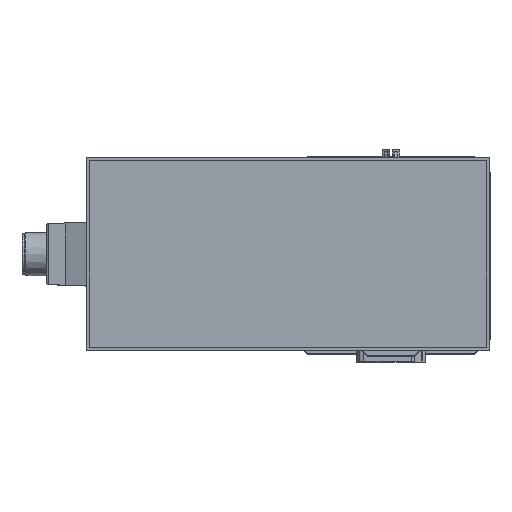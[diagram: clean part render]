
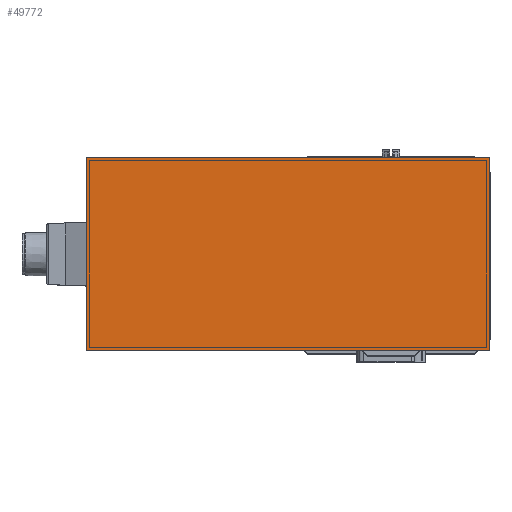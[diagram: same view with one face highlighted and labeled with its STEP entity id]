
A CAD part, top view. The second image highlights one B-rep face of the part: STEP entity #49772.
In plain terms, the highlighted planar face has unit normal (0, 0, 1).
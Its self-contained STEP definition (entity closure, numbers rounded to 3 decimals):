
#49733=CARTESIAN_POINT('',(-75.5,-77.,621.));
#49734=DIRECTION('',(0.,-1.,0.));
#49735=DIRECTION('',(-0.,0.,1.));
#49736=AXIS2_PLACEMENT_3D('',#49733,#49735,#49734);
#49737=PLANE('',#49736);
#49738=CARTESIAN_POINT('',(72.,70.5,621.));
#49739=VERTEX_POINT('',#49738);
#49740=CARTESIAN_POINT('',(-223.,70.5,621.));
#49741=VERTEX_POINT('',#49740);
#49742=CARTESIAN_POINT('',(72.,70.5,621.));
#49743=DIRECTION('',(-1.,0.,0.));
#49744=VECTOR('',#49743,295.);
#49745=LINE('',#49742,#49744);
#49746=EDGE_CURVE('',#49739,#49741,#49745,.T.);
#49747=ORIENTED_EDGE('E7752',*,*,#49746,.T.);
#49748=CARTESIAN_POINT('',(-223.,-70.5,621.));
#49749=VERTEX_POINT('',#49748);
#49750=CARTESIAN_POINT('',(-223.,70.5,621.));
#49751=DIRECTION('',(0.,-1.,0.));
#49752=VECTOR('',#49751,141.);
#49753=LINE('',#49750,#49752);
#49754=EDGE_CURVE('',#49741,#49749,#49753,.T.);
#49755=ORIENTED_EDGE('E7753',*,*,#49754,.T.);
#49756=CARTESIAN_POINT('',(72.,-70.5,621.));
#49757=VERTEX_POINT('',#49756);
#49758=CARTESIAN_POINT('',(-223.,-70.5,621.));
#49759=DIRECTION('',(1.,0.,0.));
#49760=VECTOR('',#49759,295.);
#49761=LINE('',#49758,#49760);
#49762=EDGE_CURVE('',#49749,#49757,#49761,.T.);
#49763=ORIENTED_EDGE('E7754',*,*,#49762,.T.);
#49764=CARTESIAN_POINT('',(72.,-70.5,621.));
#49765=DIRECTION('',(0.,1.,0.));
#49766=VECTOR('',#49765,141.);
#49767=LINE('',#49764,#49766);
#49768=EDGE_CURVE('',#49757,#49739,#49767,.T.);
#49769=ORIENTED_EDGE('E7755',*,*,#49768,.T.);
#49770=EDGE_LOOP('',(#49747,#49755,#49763,#49769));
#49771=FACE_OUTER_BOUND('',#49770,.T.);
#49772=ADVANCED_FACE('F3019',(#49771),#49737,.T.);
